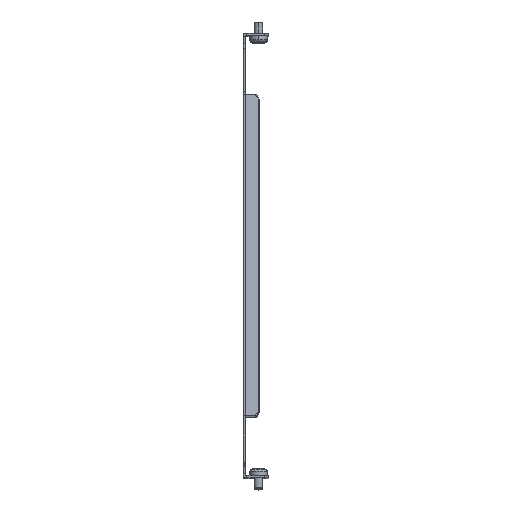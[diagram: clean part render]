
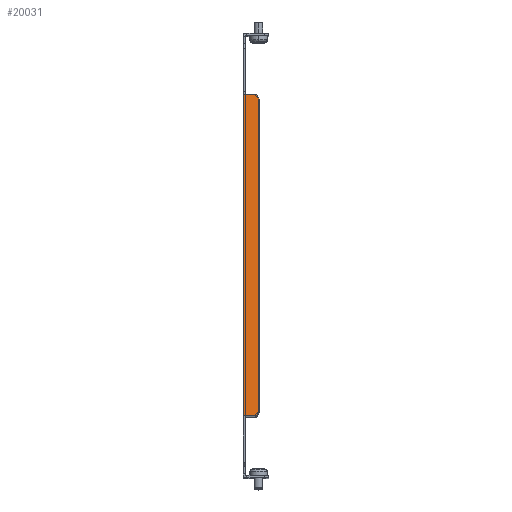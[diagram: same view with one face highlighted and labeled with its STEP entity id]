
A CAD part, top view. The second image highlights one B-rep face of the part: STEP entity #20031.
In plain terms, the highlighted planar face has unit normal (0.5, 0, 0.866).
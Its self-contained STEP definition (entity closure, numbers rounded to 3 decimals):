
#4 = DIRECTION ( 'NONE',  ( -0.612, 0.707, 0.354 ) ) ;
#139 = CARTESIAN_POINT ( 'NONE',  ( 4.006, -108.537, 293.045 ) ) ;
#159 = LINE ( 'NONE', #13833, #20952 ) ;
#888 = EDGE_CURVE ( 'NONE', #1049, #1234, #5170, .T. ) ;
#1049 = VERTEX_POINT ( 'NONE', #14152 ) ;
#1217 = VERTEX_POINT ( 'NONE', #13669 ) ;
#1234 = VERTEX_POINT ( 'NONE', #3135 ) ;
#1527 = VECTOR ( 'NONE', #16407, 1000. ) ;
#1584 = CARTESIAN_POINT ( 'NONE',  ( 121.469, -111.537, 225.228 ) ) ;
#1620 = LINE ( 'NONE', #17008, #6474 ) ;
#2179 = VERTEX_POINT ( 'NONE', #2796 ) ;
#2211 = ORIENTED_EDGE ( 'NONE', *, *, #7658, .F. ) ;
#2476 = VECTOR ( 'NONE', #5034, 1000. ) ;
#2796 = CARTESIAN_POINT ( 'NONE',  ( -2.895, 109.963, 297.03 ) ) ;
#3135 = CARTESIAN_POINT ( 'NONE',  ( -7.395, -111.537, 299.628 ) ) ;
#4033 = EDGE_CURVE ( 'NONE', #1217, #16610, #1620, .T. ) ;
#4732 = DIRECTION ( 'NONE',  ( -0.866, 0., 0.5 ) ) ;
#4824 = CARTESIAN_POINT ( 'NONE',  ( 1.408, 109.963, 294.545 ) ) ;
#5034 = DIRECTION ( 'NONE',  ( 0., -1., 0. ) ) ;
#5170 = LINE ( 'NONE', #1584, #18258 ) ;
#5256 = CARTESIAN_POINT ( 'NONE',  ( -5.145, -111.537, 298.329 ) ) ;
#5438 = CARTESIAN_POINT ( 'NONE',  ( 121.469, -0.787, 225.228 ) ) ;
#5945 = ORIENTED_EDGE ( 'NONE', *, *, #6766, .F. ) ;
#6474 = VECTOR ( 'NONE', #11495, 1000. ) ;
#6698 = ORIENTED_EDGE ( 'NONE', *, *, #15554, .F. ) ;
#6766 = EDGE_CURVE ( 'NONE', #14097, #16610, #14723, .T. ) ;
#6889 = VECTOR ( 'NONE', #6912, 1000. ) ;
#6912 = DIRECTION ( 'NONE',  ( -0.866, 0., 0.5 ) ) ;
#7016 = LINE ( 'NONE', #17138, #6889 ) ;
#7024 = CARTESIAN_POINT ( 'NONE',  ( -7.395, 109.963, 299.628 ) ) ;
#7222 = FACE_OUTER_BOUND ( 'NONE', #8021, .T. ) ;
#7489 = LINE ( 'NONE', #5256, #20389 ) ;
#7658 = EDGE_CURVE ( 'NONE', #2179, #20868, #159, .T. ) ;
#8021 = EDGE_LOOP ( 'NONE', ( #6698, #9933, #5945, #20304, #2211, #13087, #19053, #16587 ) ) ;
#8101 = EDGE_CURVE ( 'NONE', #14097, #20868, #20202, .T. ) ;
#8176 = CARTESIAN_POINT ( 'NONE',  ( -7.395, -0.787, 299.628 ) ) ;
#9542 = CARTESIAN_POINT ( 'NONE',  ( 4.006, -111.537, 293.045 ) ) ;
#9933 = ORIENTED_EDGE ( 'NONE', *, *, #4033, .T. ) ;
#10488 = AXIS2_PLACEMENT_3D ( 'NONE', #5438, #13964, #14081 ) ;
#11495 = DIRECTION ( 'NONE',  ( 0.612, 0.707, -0.354 ) ) ;
#12093 = DIRECTION ( 'NONE',  ( -0.866, 0., 0.5 ) ) ;
#13044 = VERTEX_POINT ( 'NONE', #7024 ) ;
#13087 = ORIENTED_EDGE ( 'NONE', *, *, #19458, .T. ) ;
#13302 = CARTESIAN_POINT ( 'NONE',  ( 1.408, 109.963, 294.545 ) ) ;
#13448 = LINE ( 'NONE', #8176, #2476 ) ;
#13669 = CARTESIAN_POINT ( 'NONE',  ( 1.408, -111.537, 294.545 ) ) ;
#13833 = CARTESIAN_POINT ( 'NONE',  ( 4.006, 109.963, 293.045 ) ) ;
#13964 = DIRECTION ( 'NONE',  ( -0.5, 0., -0.866 ) ) ;
#14081 = DIRECTION ( 'NONE',  ( 0.866, 0., -0.5 ) ) ;
#14097 = VERTEX_POINT ( 'NONE', #21646 ) ;
#14152 = CARTESIAN_POINT ( 'NONE',  ( -2.895, -111.537, 297.03 ) ) ;
#14723 = LINE ( 'NONE', #9542, #1527 ) ;
#15353 = EDGE_CURVE ( 'NONE', #13044, #1234, #13448, .T. ) ;
#15554 = EDGE_CURVE ( 'NONE', #1217, #1049, #7489, .T. ) ;
#15991 = PLANE ( 'NONE',  #10488 ) ;
#16407 = DIRECTION ( 'NONE',  ( 0., -1., 0. ) ) ;
#16587 = ORIENTED_EDGE ( 'NONE', *, *, #888, .F. ) ;
#16610 = VERTEX_POINT ( 'NONE', #139 ) ;
#17008 = CARTESIAN_POINT ( 'NONE',  ( 4.006, -108.537, 293.045 ) ) ;
#17138 = CARTESIAN_POINT ( 'NONE',  ( -2.895, 109.963, 297.03 ) ) ;
#18258 = VECTOR ( 'NONE', #4732, 1000. ) ;
#19053 = ORIENTED_EDGE ( 'NONE', *, *, #15353, .T. ) ;
#19458 = EDGE_CURVE ( 'NONE', #2179, #13044, #7016, .T. ) ;
#20031 = ADVANCED_FACE ( 'NONE', ( #7222 ), #15991, .F. ) ;
#20202 = LINE ( 'NONE', #4824, #20244 ) ;
#20244 = VECTOR ( 'NONE', #4, 1000. ) ;
#20304 = ORIENTED_EDGE ( 'NONE', *, *, #8101, .T. ) ;
#20389 = VECTOR ( 'NONE', #12093, 1000. ) ;
#20868 = VERTEX_POINT ( 'NONE', #13302 ) ;
#20952 = VECTOR ( 'NONE', #22131, 1000. ) ;
#21646 = CARTESIAN_POINT ( 'NONE',  ( 4.006, 106.963, 293.045 ) ) ;
#22131 = DIRECTION ( 'NONE',  ( 0.866, 0., -0.5 ) ) ;
